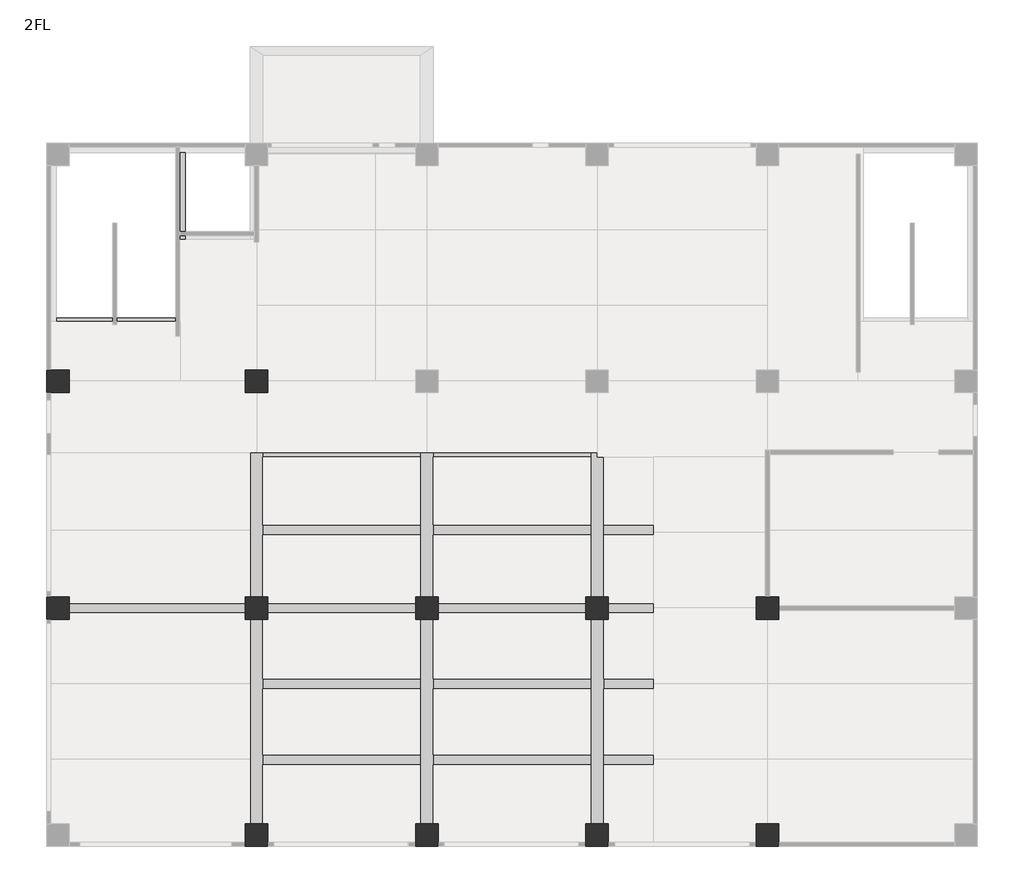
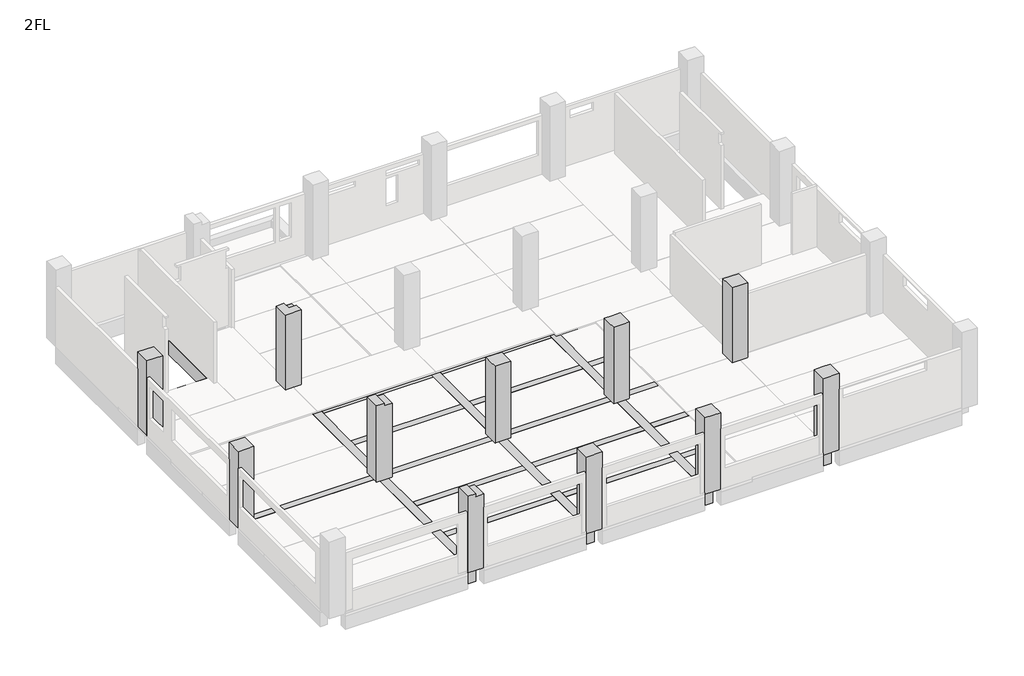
# One storey, part 3 of 4: 35 beams, 11 columns.
"""IFC4 building model written with IfcOpenShell, lengths in millimetres."""

from ifc_helpers import new_model, si_unit, frame, origin, place, context, project, spatial, polyline, outline, extrude, faceted_brep, element, save

model = new_model("IFC4")

# Units and contexts
model_context = context("Model", 3, world=origin())
ifc_project = project(units=[si_unit("LENGTHUNIT", "METRE", prefix="MILLI")], contexts=[model_context])

# Site, building, storey
site = spatial("IfcSite", under=ifc_project)
building = spatial("IfcBuilding", under=site)
storey = spatial("IfcBuildingStorey", under=building, Name="2FL", Elevation=4100.0)

# Beams
placement = place(None, origin())
element("IfcBeam", 1, ObjectType="RC_B : 2G12", at=placement, inside=storey, context=model_context, shape_type="Brep", body=[
    faceted_brep([(6775.0, 0.0, 3100.0), (6775.0, 0.0, 4000.0), (6775.0, 400.0, 4000.0), (6775.0, 2664.0, 4000.0), (6775.0, 5328.0, 4000.0), (6775.0, 7600.0, 4000.0), (6775.0, 7600.0, 3850.0), (6775.0, 7600.0, 3100.0), (7225.0, 0.0, 3100.0), (7225.0, 7600.0, 3100.0), (7225.0, 0.0, 4000.0), (7225.0, 7600.0, 3850.0), (7225.0, 7600.0, 4000.0), (7225.0, 5505.0, 4000.0), (7225.0, 5155.0, 4000.0), (7225.0, 2835.0, 4000.0), (7225.0, 2485.0, 4000.0), (7225.0, 400.0, 4000.0)], [[[0, 1, 2, 3, 4, 5, 6, 7]], [[8, 0, 7, 9]], [[10, 8, 9, 11, 12, 13, 14, 15, 16, 17]], [[1, 10, 17, 16, 15, 14, 13, 12, 5, 4, 3, 2]], [[7, 6, 5, 12, 11, 9]], [[1, 0, 8, 10]]]),
])
element("IfcBeam", 2, ObjectType="RC_B : 2G12", at=placement, inside=storey, context=model_context, shape_type="Brep", body=[
    faceted_brep([(6775.0, 15600.0, 3100.0), (6775.0, 8000.0, 3100.0), (6775.0, 8000.0, 3150.0), (6775.0, 8175.0, 3150.0), (6775.0, 8175.0, 4000.0), (6775.0, 8400.0, 4000.0), (6775.0, 10748.0, 4000.0), (6775.0, 13496.0, 4000.0), (6775.0, 13496.0, 3940.0), (6775.0, 13675.0, 3940.0), (6775.0, 15600.0, 3940.0), (7225.0, 15600.0, 3100.0), (7225.0, 8000.0, 3100.0), (7225.0, 15600.0, 3940.0), (7225.0, 15600.0, 4000.0), (7225.0, 13675.0, 4000.0), (7225.0, 13325.0, 4000.0), (7225.0, 10925.0, 4000.0), (7225.0, 10575.0, 4000.0), (7225.0, 8400.0, 4000.0), (7225.0, 8175.0, 4000.0), (7225.0, 8000.0, 4000.0), (7000.0, 15600.0, 4000.0), (7000.0, 13496.0, 4000.0), (7000.0, 8175.0, 4000.0), (7000.0, 8000.0, 4000.0), (7000.0, 15600.0, 3940.0), (7000.0, 8000.0, 3150.0), (7000.0, 8175.0, 3150.0), (7000.0, 13496.0, 3940.0)], [[[0, 1, 2, 3, 4, 5, 6, 7, 8, 9, 10]], [[0, 11, 12, 1]], [[11, 13, 14, 15, 16, 17, 18, 19, 20, 21, 12]], [[21, 20, 19, 18, 17, 16, 15, 14, 22, 23, 7, 6, 5, 4, 24, 25]], [[11, 0, 10, 26, 22, 14, 13]], [[1, 12, 21, 25, 27, 2]], [[28, 24, 4, 3]], [[28, 3, 2, 27]], [[24, 28, 27, 25]], [[8, 29, 26, 10, 9]], [[26, 29, 23, 22]], [[29, 8, 7, 23]]]),
])
element("IfcBeam", 3, ObjectType="RC_B : 2G12", at=placement, inside=storey, context=model_context, shape_type="Brep", body=[
    faceted_brep([(12775.0, 0.0, 3100.0), (12775.0, 0.0, 4000.0), (12775.0, 400.0, 4000.0), (12775.0, 2485.0, 4000.0), (12775.0, 2835.0, 4000.0), (12775.0, 5155.0, 4000.0), (12775.0, 5505.0, 4000.0), (12775.0, 7600.0, 4000.0), (12775.0, 7600.0, 3850.0), (12775.0, 7600.0, 3100.0), (13225.0, 0.0, 3100.0), (13225.0, 7600.0, 3100.0), (13225.0, 0.0, 4000.0), (13225.0, 7600.0, 3850.0), (13225.0, 7600.0, 4000.0), (13225.0, 5505.0, 4000.0), (13225.0, 5155.0, 4000.0), (13225.0, 2835.0, 4000.0), (13225.0, 2485.0, 4000.0), (13225.0, 400.0, 4000.0)], [[[0, 1, 2, 3, 4, 5, 6, 7, 8, 9]], [[10, 0, 9, 11]], [[12, 10, 11, 13, 14, 15, 16, 17, 18, 19]], [[1, 12, 19, 18, 17, 16, 15, 14, 7, 6, 5, 4, 3, 2]], [[9, 8, 7, 14, 13, 11]], [[1, 0, 10, 12]]]),
])
element("IfcBeam", 4, ObjectType="RC_B : 2G12", at=placement, inside=storey, context=model_context, shape_type="Brep", body=[
    faceted_brep([(12775.0, 15600.0, 4000.0), (12775.0, 15600.0, 3940.0), (12775.0, 15600.0, 3100.0), (12775.0, 8000.0, 3100.0), (12775.0, 8000.0, 3150.0), (12775.0, 8175.0, 3150.0), (12775.0, 8175.0, 4000.0), (12775.0, 8400.0, 4000.0), (12775.0, 10575.0, 4000.0), (12775.0, 10925.0, 4000.0), (12775.0, 13325.0, 4000.0), (12775.0, 13675.0, 4000.0), (13225.0, 15600.0, 3100.0), (13225.0, 8000.0, 3100.0), (13225.0, 15600.0, 3940.0), (13225.0, 15600.0, 4000.0), (13225.0, 13675.0, 4000.0), (13225.0, 13325.0, 4000.0), (13225.0, 10925.0, 4000.0), (13225.0, 10575.0, 4000.0), (13225.0, 8400.0, 4000.0), (13225.0, 8175.0, 4000.0), (13225.0, 8000.0, 4000.0), (13000.0, 15600.0, 4000.0), (13000.0, 8175.0, 4000.0), (13000.0, 8000.0, 4000.0), (13000.0, 8000.0, 3150.0), (13000.0, 8175.0, 3150.0)], [[[0, 1, 2, 3, 4, 5, 6, 7, 8, 9, 10, 11]], [[2, 12, 13, 3]], [[12, 14, 15, 16, 17, 18, 19, 20, 21, 22, 13]], [[15, 23, 0, 11, 10, 9, 8, 7, 6, 24, 25, 22, 21, 20, 19, 18, 17, 16]], [[12, 2, 1, 0, 23, 15, 14]], [[3, 13, 22, 25, 26, 4]], [[27, 24, 6, 5]], [[27, 5, 4, 26]], [[24, 27, 26, 25]]]),
])
element("IfcBeam", 5, ObjectType="RC_B : 2G12", at=placement, inside=storey, context=model_context, shape_type="Brep", body=[
    faceted_brep([(18775.0, 0.0, 3100.0), (18775.0, 0.0, 4000.0), (18775.0, 400.0, 4000.0), (18775.0, 2485.0, 4000.0), (18775.0, 2835.0, 4000.0), (18775.0, 5155.0, 4000.0), (18775.0, 5505.0, 4000.0), (18775.0, 7600.0, 4000.0), (18775.0, 7600.0, 3850.0), (18775.0, 7600.0, 3100.0), (19225.0, 0.0, 3100.0), (19225.0, 7600.0, 3100.0), (19225.0, 0.0, 4000.0), (19225.0, 7600.0, 3850.0), (19225.0, 7600.0, 4000.0), (19225.0, 5505.0, 4000.0), (19225.0, 5155.0, 4000.0), (19225.0, 2835.0, 4000.0), (19225.0, 2485.0, 4000.0), (19225.0, 400.0, 4000.0)], [[[0, 1, 2, 3, 4, 5, 6, 7, 8, 9]], [[10, 0, 9, 11]], [[12, 10, 11, 13, 14, 15, 16, 17, 18, 19]], [[1, 12, 19, 18, 17, 16, 15, 14, 7, 6, 5, 4, 3, 2]], [[9, 8, 7, 14, 13, 11]], [[1, 0, 10, 12]]]),
])
element("IfcBeam", 6, ObjectType="RC_B : 2G12", at=placement, inside=storey, context=model_context, shape_type="Brep", body=[
    faceted_brep([(18775.0, 15600.0, 4000.0), (18775.0, 15600.0, 3940.0), (18775.0, 15600.0, 3100.0), (18775.0, 8000.0, 3100.0), (18775.0, 8000.0, 3150.0), (18775.0, 8175.0, 3150.0), (18775.0, 8175.0, 4000.0), (18775.0, 8400.0, 4000.0), (18775.0, 10575.0, 4000.0), (18775.0, 10925.0, 4000.0), (18775.0, 13325.0, 4000.0), (18775.0, 13675.0, 4000.0), (19225.0, 15600.0, 3100.0), (19225.0, 8000.0, 3100.0), (19225.0, 15600.0, 3940.0), (19225.0, 15600.0, 4000.0), (19225.0, 13675.0, 4000.0), (19225.0, 13325.0, 4000.0), (19225.0, 10925.0, 4000.0), (19225.0, 10575.0, 4000.0), (19225.0, 8400.0, 4000.0), (19225.0, 8175.0, 4000.0), (19225.0, 8000.0, 4000.0), (19000.0, 15600.0, 4000.0), (19000.0, 8175.0, 4000.0), (19000.0, 8000.0, 4000.0), (19000.0, 8000.0, 3150.0), (19000.0, 8175.0, 3150.0)], [[[0, 1, 2, 3, 4, 5, 6, 7, 8, 9, 10, 11]], [[2, 12, 13, 3]], [[12, 14, 15, 16, 17, 18, 19, 20, 21, 22, 13]], [[15, 23, 0, 11, 10, 9, 8, 7, 6, 24, 25, 22, 21, 20, 19, 18, 17, 16]], [[12, 2, 1, 0, 23, 15, 14]], [[3, 13, 22, 25, 26, 4]], [[27, 24, 6, 5]], [[27, 5, 4, 26]], [[24, 27, 26, 25]]]),
])
element("IfcBeam", 7, ObjectType="RC_B : 2G12", at=placement, inside=storey, context=model_context, shape_type="Brep", body=[
    faceted_brep([(24775.0, 7600.0, 3100.0), (24775.0, 0.0, 3100.0), (24775.0, 0.0, 3940.0), (24775.0, 7600.0, 3940.0), (25225.0, 7600.0, 3100.0), (25225.0, 0.0, 3100.0), (25225.0, 7600.0, 3940.0), (25225.0, 5505.0, 3940.0), (25225.0, 5155.0, 3940.0), (25225.0, 2835.0, 3940.0), (25225.0, 2485.0, 3940.0), (25225.0, 0.0, 3940.0), (25000.0, 7600.0, 3940.0)], [[[0, 1, 2, 3]], [[0, 4, 5, 1]], [[5, 4, 6, 7, 8, 9, 10, 11]], [[4, 0, 3, 12, 6]], [[1, 5, 11, 2]], [[2, 11, 10, 9, 8, 7, 6, 12, 3]]]),
])
element("IfcBeam", 8, ObjectType="RC_B : 2G12", at=placement, inside=storey, context=model_context, shape_type="Brep", body=[
    faceted_brep([(24775.0, 15600.0, 3100.0), (24775.0, 8000.0, 3100.0), (24775.0, 8000.0, 3150.0), (24775.0, 8175.0, 3150.0), (24775.0, 8175.0, 3940.0), (24775.0, 10575.0, 3940.0), (24775.0, 10575.0, 3250.0), (24775.0, 10925.0, 3250.0), (24775.0, 10925.0, 3940.0), (24775.0, 13325.0, 3940.0), (24775.0, 13325.0, 3250.0), (24775.0, 13675.0, 3250.0), (24775.0, 13675.0, 3940.0), (24775.0, 15600.0, 3940.0), (25225.0, 15600.0, 3100.0), (25225.0, 13575.0, 3100.0), (25075.0, 13575.0, 3100.0), (25075.0, 13425.0, 3100.0), (25225.0, 13425.0, 3100.0), (25225.0, 8000.0, 3100.0), (25225.0, 15600.0, 3940.0), (25225.0, 13675.0, 3940.0), (25225.0, 13325.0, 3940.0), (25225.0, 10925.0, 3940.0), (25225.0, 10575.0, 3940.0), (25225.0, 8175.0, 3940.0), (25225.0, 8000.0, 3940.0), (25225.0, 13425.0, 3250.0), (25225.0, 13575.0, 3250.0), (25000.0, 15600.0, 3940.0), (25000.0, 8000.0, 3940.0), (25000.0, 8000.0, 3150.0), (25000.0, 8175.0, 3150.0), (25000.0, 8175.0, 3940.0), (24912.3, 13675.0, 3940.0), (24912.3, 13328.0, 3940.0), (24912.3, 13325.0, 3940.0), (24912.3, 10925.0, 3940.0), (24912.3, 10664.0, 3940.0), (24912.3, 10575.0, 3940.0), (24912.3, 10925.0, 3250.0), (24912.3, 10575.0, 3250.0), (24912.3, 13675.0, 3250.0), (24912.3, 13325.0, 3250.0), (25075.0, 13575.0, 3250.0), (25075.0, 13425.0, 3250.0)], [[[0, 1, 2, 3, 4, 5, 6, 7, 8, 9, 10, 11, 12, 13]], [[0, 14, 15, 16, 17, 18, 19, 1]], [[14, 20, 21, 22, 23, 24, 25, 26, 19, 18, 27, 28, 15]], [[14, 0, 13, 29, 20]], [[1, 19, 26, 30, 31, 2]], [[3, 32, 33, 4]], [[32, 3, 2, 31]], [[32, 31, 30, 33]], [[20, 29, 13, 12, 34, 35, 36, 9, 8, 37, 38, 39, 5, 4, 33, 30, 26, 25, 24, 23, 22, 21]], [[7, 40, 37, 8]], [[41, 40, 7, 6]], [[41, 6, 5, 39]], [[40, 41, 39, 38, 37]], [[11, 42, 34, 12]], [[43, 42, 11, 10]], [[43, 10, 9, 36]], [[42, 43, 36, 35, 34]], [[28, 44, 16, 15]], [[17, 45, 27, 18]], [[45, 44, 28, 27]], [[44, 45, 17, 16]]]),
])
element("IfcBeam", 9, ObjectType="RC_B : 2G2", at=placement, inside=storey, context=model_context, shape_type="Brep", body=[
    faceted_brep([(0.0, 8175.0, 3150.0), (0.0, 8175.0, 4000.0), (400.0, 8175.0, 4000.0), (6600.0, 8175.0, 4000.0), (6600.0, 8175.0, 3850.0), (6600.0, 8175.0, 3150.0), (0.0, 7825.0, 3150.0), (6600.0, 7825.0, 3150.0), (0.0, 7825.0, 4000.0), (6600.0, 7825.0, 3850.0), (6600.0, 7825.0, 4000.0), (400.0, 7825.0, 4000.0)], [[[0, 1, 2, 3, 4, 5]], [[6, 0, 5, 7]], [[8, 6, 7, 9, 10, 11]], [[1, 8, 11, 10, 3, 2]], [[5, 4, 3, 10, 9, 7]], [[1, 0, 6, 8]]]),
])
element("IfcBeam", 10, ObjectType="RC_B : 2G2", at=placement, inside=storey, context=model_context, shape_type="Brep", body=[
    faceted_brep([(12600.0, 8175.0, 4000.0), (12600.0, 8175.0, 3850.0), (12600.0, 8175.0, 3150.0), (7225.0, 8175.0, 3150.0), (7225.0, 8175.0, 4000.0), (7400.0, 8175.0, 4000.0), (12600.0, 7825.0, 3150.0), (7225.0, 7825.0, 3150.0), (12600.0, 7825.0, 3850.0), (12600.0, 7825.0, 4000.0), (7400.0, 7825.0, 4000.0), (7225.0, 7825.0, 4000.0), (7225.0, 8000.0, 4000.0)], [[[0, 1, 2, 3, 4, 5]], [[2, 6, 7, 3]], [[6, 8, 9, 10, 11, 7]], [[9, 0, 5, 4, 12, 11, 10]], [[2, 1, 0, 9, 8, 6]], [[7, 11, 12, 4, 3]]]),
])
element("IfcBeam", 11, ObjectType="RC_B : 2G2", at=placement, inside=storey, context=model_context, shape_type="Brep", body=[
    faceted_brep([(18600.0, 8175.0, 4000.0), (18600.0, 8175.0, 3850.0), (18600.0, 8175.0, 3150.0), (13225.0, 8175.0, 3150.0), (13225.0, 8175.0, 4000.0), (13400.0, 8175.0, 4000.0), (18600.0, 7825.0, 3150.0), (13225.0, 7825.0, 3150.0), (18600.0, 7825.0, 3850.0), (18600.0, 7825.0, 4000.0), (13400.0, 7825.0, 4000.0), (13225.0, 7825.0, 4000.0), (13225.0, 8000.0, 4000.0)], [[[0, 1, 2, 3, 4, 5]], [[2, 6, 7, 3]], [[6, 8, 9, 10, 11, 7]], [[9, 0, 5, 4, 12, 11, 10]], [[2, 1, 0, 9, 8, 6]], [[7, 11, 12, 4, 3]]]),
])
element("IfcBeam", 12, ObjectType="RC_B : 2G2", at=placement, inside=storey, context=model_context, shape_type="Brep", body=[
    faceted_brep([(24600.0, 8175.0, 3150.0), (19225.0, 8175.0, 3150.0), (19225.0, 8175.0, 4000.0), (19400.0, 8175.0, 4000.0), (20998.0, 8175.0, 4000.0), (20998.0, 8175.0, 3940.0), (24600.0, 8175.0, 3940.0), (24600.0, 7825.0, 3150.0), (22075.0, 7825.0, 3150.0), (21925.0, 7825.0, 3150.0), (19225.0, 7825.0, 3150.0), (24600.0, 7825.0, 3940.0), (22075.0, 7825.0, 3940.0), (21925.0, 7825.0, 3940.0), (20998.0, 7825.0, 3940.0), (20998.0, 7825.0, 4000.0), (19400.0, 7825.0, 4000.0), (19225.0, 7825.0, 4000.0), (19225.0, 8000.0, 4000.0), (24600.0, 8000.0, 3940.0), (20998.0, 8000.0, 3940.0)], [[[0, 1, 2, 3, 4, 5, 6]], [[0, 7, 8, 9, 10, 1]], [[10, 9, 8, 7, 11, 12, 13, 14, 15, 16, 17]], [[2, 18, 17, 16, 15, 4, 3]], [[7, 0, 6, 19, 11]], [[10, 17, 18, 2, 1]], [[14, 13, 12, 11, 19, 6, 5, 20]], [[14, 20, 5, 4, 15]]]),
])
element("IfcBeam", 13, ObjectType="RC_B : 2G2", at=placement, inside=storey, context=model_context, shape_type="Brep", body=[
    faceted_brep([(31600.0, 8175.0, 3150.0), (25225.0, 8175.0, 3150.0), (25225.0, 8175.0, 3940.0), (31600.0, 8175.0, 3940.0), (31600.0, 7825.0, 3150.0), (25225.0, 7825.0, 3150.0), (31600.0, 7825.0, 3940.0), (25225.0, 7825.0, 3940.0), (31600.0, 8000.0, 3940.0), (25225.0, 8000.0, 3940.0)], [[[0, 1, 2, 3]], [[0, 4, 5, 1]], [[5, 4, 6, 7]], [[4, 0, 3, 8, 6]], [[1, 5, 7, 9, 2]], [[7, 6, 8, 3, 2, 9]]]),
])
element("IfcBeam", 14, ObjectType="RC_B : 2G2", at=placement, inside=storey, context=model_context, shape_type="Brep", body=[
    faceted_brep([(6600.0, 16175.0, 3150.0), (2075.0, 16175.0, 3150.0), (1925.0, 16175.0, 3150.0), (0.0, 16175.0, 3150.0), (0.0, 16175.0, 3940.0), (6600.0, 16175.0, 3940.0), (6600.0, 15825.0, 3150.0), (0.0, 15825.0, 3150.0), (6600.0, 15825.0, 3940.0), (0.0, 15825.0, 3940.0), (6600.0, 16000.0, 3940.0)], [[[0, 1, 2, 3, 4, 5]], [[0, 6, 7, 3, 2, 1]], [[7, 6, 8, 9]], [[6, 0, 5, 10, 8]], [[3, 7, 9, 4]], [[9, 8, 10, 5, 4]]]),
])
element("IfcBeam", 15, ObjectType="RC_B : B1", at=placement, inside=storey, context=model_context, shape_type="Brep", body=[
    faceted_brep([(6775.0, 5505.0, 3250.0), (-50.0, 5505.0, 3250.0), (-50.0, 5505.0, 3850.0), (6775.0, 5505.0, 3850.0), (6775.0, 5155.0, 3250.0), (-50.0, 5155.0, 3250.0), (6775.0, 5155.0, 3850.0), (-50.0, 5155.0, 3850.0), (6775.0, 5328.0, 3850.0)], [[[0, 1, 2, 3]], [[0, 4, 5, 1]], [[5, 4, 6, 7]], [[4, 0, 3, 8, 6]], [[1, 5, 7, 2]], [[3, 2, 7, 6, 8]]]),
])
element("IfcBeam", 16, ObjectType="RC_B : B1", at=placement, inside=storey, context=model_context, shape_type="Brep", body=[
    faceted_brep([(7225.0, 2835.0, 3250.0), (7225.0, 2835.0, 3850.0), (7225.0, 2835.0, 4000.0), (12775.0, 2835.0, 4000.0), (12775.0, 2835.0, 3850.0), (12775.0, 2835.0, 3250.0), (7225.0, 2485.0, 3250.0), (12775.0, 2485.0, 3250.0), (7225.0, 2485.0, 4000.0), (7225.0, 2485.0, 3850.0), (12775.0, 2485.0, 3850.0), (12775.0, 2485.0, 4000.0)], [[[0, 1, 2, 3, 4, 5]], [[6, 0, 5, 7]], [[8, 9, 6, 7, 10, 11]], [[2, 8, 11, 3]], [[2, 1, 0, 6, 9, 8]], [[5, 4, 3, 11, 10, 7]]]),
])
element("IfcBeam", 17, ObjectType="RC_B : B1", at=placement, inside=storey, context=model_context, shape_type="Brep", body=[
    faceted_brep([(7225.0, 5505.0, 3250.0), (7225.0, 5505.0, 3850.0), (7225.0, 5505.0, 4000.0), (12775.0, 5505.0, 4000.0), (12775.0, 5505.0, 3850.0), (12775.0, 5505.0, 3250.0), (7225.0, 5155.0, 3250.0), (12775.0, 5155.0, 3250.0), (7225.0, 5155.0, 4000.0), (7225.0, 5155.0, 3850.0), (12775.0, 5155.0, 3850.0), (12775.0, 5155.0, 4000.0)], [[[0, 1, 2, 3, 4, 5]], [[6, 0, 5, 7]], [[8, 9, 6, 7, 10, 11]], [[2, 8, 11, 3]], [[2, 1, 0, 6, 9, 8]], [[5, 4, 3, 11, 10, 7]]]),
])
element("IfcBeam", 18, ObjectType="RC_B : B1", at=placement, inside=storey, context=model_context, shape_type="Brep", body=[
    faceted_brep([(13225.0, 2835.0, 3250.0), (13225.0, 2835.0, 3850.0), (13225.0, 2835.0, 4000.0), (18775.0, 2835.0, 4000.0), (18775.0, 2835.0, 3850.0), (18775.0, 2835.0, 3250.0), (13225.0, 2485.0, 3250.0), (18775.0, 2485.0, 3250.0), (13225.0, 2485.0, 4000.0), (13225.0, 2485.0, 3850.0), (18775.0, 2485.0, 3850.0), (18775.0, 2485.0, 4000.0)], [[[0, 1, 2, 3, 4, 5]], [[6, 0, 5, 7]], [[8, 9, 6, 7, 10, 11]], [[2, 8, 11, 3]], [[2, 1, 0, 6, 9, 8]], [[5, 4, 3, 11, 10, 7]]]),
])
element("IfcBeam", 19, ObjectType="RC_B : B1", at=placement, inside=storey, context=model_context, shape_type="Brep", body=[
    faceted_brep([(13225.0, 5505.0, 3250.0), (13225.0, 5505.0, 3850.0), (13225.0, 5505.0, 4000.0), (18775.0, 5505.0, 4000.0), (18775.0, 5505.0, 3850.0), (18775.0, 5505.0, 3250.0), (13225.0, 5155.0, 3250.0), (18775.0, 5155.0, 3250.0), (13225.0, 5155.0, 4000.0), (13225.0, 5155.0, 3850.0), (18775.0, 5155.0, 3850.0), (18775.0, 5155.0, 4000.0)], [[[0, 1, 2, 3, 4, 5]], [[6, 0, 5, 7]], [[8, 9, 6, 7, 10, 11]], [[2, 8, 11, 3]], [[2, 1, 0, 6, 9, 8]], [[5, 4, 3, 11, 10, 7]]]),
])
element("IfcBeam", 20, ObjectType="RC_B : B1", at=placement, inside=storey, context=model_context, shape_type="SweptSolid", body=[
    extrude(outline(polyline([(13675.0, 3250.0), (13325.0, 3250.0), (13325.0, 3850.0), (13496.0, 3850.0), (13496.0, 3940.0), (13675.0, 3940.0), (13675.0, 3250.0)])), frame((-50.0, 0.0, 0.0), z_axis=(1.0, 0.0, 0.0), x_axis=(0.0, 1.0, 0.0)), (0.0, 0.0, 1.0), 6825.0),
])
element("IfcBeam", 21, ObjectType="RC_B : B1", at=placement, inside=storey, context=model_context, shape_type="Brep", body=[
    faceted_brep([(7225.0, 13675.0, 3250.0), (7225.0, 13675.0, 3940.0), (7225.0, 13675.0, 4000.0), (12775.0, 13675.0, 4000.0), (12775.0, 13675.0, 3940.0), (12775.0, 13675.0, 3250.0), (7225.0, 13325.0, 3250.0), (12775.0, 13325.0, 3250.0), (7225.0, 13325.0, 4000.0), (7225.0, 13325.0, 3850.0), (12775.0, 13325.0, 3850.0), (12775.0, 13325.0, 4000.0)], [[[0, 1, 2, 3, 4, 5]], [[6, 0, 5, 7]], [[8, 9, 6, 7, 10, 11]], [[2, 8, 11, 3]], [[2, 1, 0, 6, 9, 8]], [[5, 4, 3, 11, 10, 7]]]),
])
element("IfcBeam", 22, ObjectType="RC_B : B1", at=placement, inside=storey, context=model_context, shape_type="Brep", body=[
    faceted_brep([(13225.0, 13675.0, 3250.0), (13225.0, 13675.0, 3940.0), (13225.0, 13675.0, 4000.0), (18775.0, 13675.0, 4000.0), (18775.0, 13675.0, 3940.0), (18775.0, 13675.0, 3250.0), (13225.0, 13325.0, 3250.0), (18775.0, 13325.0, 3250.0), (13225.0, 13325.0, 4000.0), (13225.0, 13325.0, 3850.0), (18775.0, 13325.0, 3850.0), (18775.0, 13325.0, 4000.0)], [[[0, 1, 2, 3, 4, 5]], [[6, 0, 5, 7]], [[8, 9, 6, 7, 10, 11]], [[2, 8, 11, 3]], [[2, 1, 0, 6, 9, 8]], [[5, 4, 3, 11, 10, 7]]]),
])
element("IfcBeam", 23, ObjectType="RC_B : B1", at=placement, inside=storey, context=model_context, shape_type="Brep", body=[
    faceted_brep([(6775.0, 10925.0, 3250.0), (-50.0, 10925.0, 3250.0), (-50.0, 10925.0, 3850.0), (6775.0, 10925.0, 3850.0), (6775.0, 10575.0, 3250.0), (-50.0, 10575.0, 3250.0), (6775.0, 10575.0, 3850.0), (-50.0, 10575.0, 3850.0), (6775.0, 10748.0, 3850.0)], [[[0, 1, 2, 3]], [[0, 4, 5, 1]], [[5, 4, 6, 7]], [[4, 0, 3, 8, 6]], [[1, 5, 7, 2]], [[3, 2, 7, 6, 8]]]),
])
element("IfcBeam", 24, ObjectType="RC_B : B1", at=placement, inside=storey, context=model_context, shape_type="Brep", body=[
    faceted_brep([(7225.0, 10925.0, 3250.0), (7225.0, 10925.0, 3850.0), (7225.0, 10925.0, 4000.0), (12775.0, 10925.0, 4000.0), (12775.0, 10925.0, 3850.0), (12775.0, 10925.0, 3250.0), (7225.0, 10575.0, 3250.0), (12775.0, 10575.0, 3250.0), (7225.0, 10575.0, 4000.0), (7225.0, 10575.0, 3850.0), (12775.0, 10575.0, 3850.0), (12775.0, 10575.0, 4000.0)], [[[0, 1, 2, 3, 4, 5]], [[6, 0, 5, 7]], [[8, 9, 6, 7, 10, 11]], [[2, 8, 11, 3]], [[2, 1, 0, 6, 9, 8]], [[5, 4, 3, 11, 10, 7]]]),
])
element("IfcBeam", 25, ObjectType="RC_B : B1", at=placement, inside=storey, context=model_context, shape_type="Brep", body=[
    faceted_brep([(13225.0, 10925.0, 3250.0), (13225.0, 10925.0, 3850.0), (13225.0, 10925.0, 4000.0), (18775.0, 10925.0, 4000.0), (18775.0, 10925.0, 3850.0), (18775.0, 10925.0, 3250.0), (13225.0, 10575.0, 3250.0), (18775.0, 10575.0, 3250.0), (13225.0, 10575.0, 4000.0), (13225.0, 10575.0, 3850.0), (18775.0, 10575.0, 3850.0), (18775.0, 10575.0, 4000.0)], [[[0, 1, 2, 3, 4, 5]], [[6, 0, 5, 7]], [[8, 9, 6, 7, 10, 11]], [[2, 8, 11, 3]], [[2, 1, 0, 6, 9, 8]], [[5, 4, 3, 11, 10, 7]]]),
])
element("IfcBeam", 26, ObjectType="RC_B : B2", at=placement, inside=storey, context=model_context, shape_type="Brep", body=[
    faceted_brep([(19225.0, 2835.0, 3250.0), (19225.0, 2835.0, 3850.0), (19225.0, 2835.0, 4000.0), (20998.0, 2835.0, 4000.0), (24775.0, 2835.0, 4000.0), (24775.0, 2835.0, 3250.0), (22075.0, 2835.0, 3250.0), (21925.0, 2835.0, 3250.0), (19225.0, 2485.0, 3250.0), (24775.0, 2485.0, 3250.0), (22075.0, 2485.0, 3250.0), (21925.0, 2485.0, 3250.0), (19225.0, 2485.0, 4000.0), (19225.0, 2485.0, 3850.0), (24775.0, 2485.0, 4000.0), (20998.0, 2485.0, 4000.0)], [[[0, 1, 2, 3, 4, 5, 6, 7]], [[8, 0, 7, 6, 5, 9, 10, 11]], [[12, 13, 8, 11, 10, 9, 14, 15]], [[2, 12, 15, 14, 4, 3]], [[2, 1, 0, 8, 13, 12]], [[5, 4, 14, 9]]]),
])
element("IfcBeam", 27, ObjectType="RC_B : B2", at=placement, inside=storey, context=model_context, shape_type="Brep", body=[
    faceted_brep([(19225.0, 5505.0, 3250.0), (19225.0, 5505.0, 3850.0), (19225.0, 5505.0, 4000.0), (20998.0, 5505.0, 4000.0), (24775.0, 5505.0, 4000.0), (24775.0, 5505.0, 3250.0), (22075.0, 5505.0, 3250.0), (21925.0, 5505.0, 3250.0), (19225.0, 5155.0, 3250.0), (24775.0, 5155.0, 3250.0), (22075.0, 5155.0, 3250.0), (21925.0, 5155.0, 3250.0), (19225.0, 5155.0, 4000.0), (19225.0, 5155.0, 3850.0), (24775.0, 5155.0, 4000.0), (20998.0, 5155.0, 4000.0)], [[[0, 1, 2, 3, 4, 5, 6, 7]], [[8, 0, 7, 6, 5, 9, 10, 11]], [[12, 13, 8, 11, 10, 9, 14, 15]], [[2, 12, 15, 14, 4, 3]], [[2, 1, 0, 8, 13, 12]], [[5, 4, 14, 9]]]),
])
element("IfcBeam", 28, ObjectType="RC_B : B2", at=placement, inside=storey, context=model_context, shape_type="SweptSolid", body=[
    extrude(outline(polyline([(25225.0, 2485.0), (25225.0, 2835.0), (32050.0, 2835.0), (32050.0, 2485.0), (25225.0, 2485.0)])), frame((0.0, 0.0, 3250.0), z_axis=(0.0, 0.0, 1.0), x_axis=(1.0, 0.0, 0.0)), (0.0, 0.0, 1.0), 690.0),
])
element("IfcBeam", 29, ObjectType="RC_B : B2", at=placement, inside=storey, context=model_context, shape_type="SweptSolid", body=[
    extrude(outline(polyline([(32050.0, 5505.0), (32050.0, 5155.0), (25225.0, 5155.0), (25225.0, 5505.0), (32050.0, 5505.0)])), frame((0.0, 0.0, 3250.0), z_axis=(0.0, 0.0, 1.0), x_axis=(1.0, 0.0, 0.0)), (0.0, 0.0, 1.0), 690.0),
])
element("IfcBeam", 30, ObjectType="RC_B : B2", at=placement, inside=storey, context=model_context, shape_type="Brep", body=[
    faceted_brep([(24912.3, 10925.0, 4000.0), (24912.3, 10925.0, 3940.0), (24912.3, 10925.0, 3250.0), (24775.0, 10925.0, 3250.0), (19225.0, 10925.0, 3250.0), (19225.0, 10925.0, 3850.0), (19225.0, 10925.0, 4000.0), (20998.0, 10925.0, 4000.0), (24912.3, 10575.0, 3250.0), (24775.0, 10575.0, 3250.0), (19225.0, 10575.0, 3250.0), (24912.3, 10575.0, 3940.0), (24912.3, 10575.0, 4000.0), (20998.0, 10575.0, 4000.0), (19225.0, 10575.0, 4000.0), (19225.0, 10575.0, 3850.0), (24912.3, 10664.0, 4000.0)], [[[0, 1, 2, 3, 4, 5, 6, 7]], [[2, 8, 9, 10, 4, 3]], [[8, 11, 12, 13, 14, 15, 10, 9]], [[12, 16, 0, 7, 6, 14, 13]], [[2, 1, 0, 16, 12, 11, 8]], [[6, 5, 4, 10, 15, 14]]]),
])
element("IfcBeam", 31, ObjectType="RC_B : B2", at=placement, inside=storey, context=model_context, shape_type="Brep", body=[
    faceted_brep([(24912.3, 13675.0, 4000.0), (24912.3, 13675.0, 3940.0), (24912.3, 13675.0, 3250.0), (24775.0, 13675.0, 3250.0), (19225.0, 13675.0, 3250.0), (19225.0, 13675.0, 3940.0), (19225.0, 13675.0, 4000.0), (24912.3, 13325.0, 3250.0), (24775.0, 13325.0, 3250.0), (19225.0, 13325.0, 3250.0), (24912.3, 13325.0, 3940.0), (24912.3, 13325.0, 4000.0), (20998.0, 13325.0, 4000.0), (19225.0, 13325.0, 4000.0), (19225.0, 13325.0, 3850.0), (24912.3, 13328.0, 4000.0)], [[[0, 1, 2, 3, 4, 5, 6]], [[2, 7, 8, 9, 4, 3]], [[7, 10, 11, 12, 13, 14, 9, 8]], [[11, 15, 0, 6, 13, 12]], [[2, 1, 0, 15, 11, 10, 7]], [[6, 5, 4, 9, 14, 13]]]),
])
element("IfcBeam", 32, ObjectType="RC_B : B2", at=placement, inside=storey, context=model_context, shape_type="Brep", body=[
    faceted_brep([(32050.0, 13675.0, 3250.0), (25225.0, 13675.0, 3250.0), (25225.0, 13675.0, 3940.0), (32050.0, 13675.0, 3940.0), (25225.0, 13325.0, 3250.0), (25225.0, 13425.0, 3250.0), (25225.0, 13575.0, 3250.0), (32050.0, 13575.0, 3250.0), (32050.0, 13425.0, 3250.0), (32050.0, 13325.0, 3250.0), (31410.0, 13325.0, 3250.0), (31410.0, 13425.0, 3250.0), (31260.0, 13425.0, 3250.0), (31260.0, 13325.0, 3250.0), (25225.0, 13325.0, 3940.0), (31260.0, 13325.0, 3940.0), (32050.0, 13325.0, 3940.0), (31260.0, 13425.0, 3940.0), (31410.0, 13425.0, 3940.0), (31410.0, 13325.0, 3940.0)], [[[0, 1, 2, 3]], [[4, 5, 6, 1, 0, 7, 8, 9, 10, 11, 12, 13]], [[14, 4, 13, 15]], [[1, 6, 5, 4, 14, 2]], [[9, 8, 7, 0, 3, 16]], [[3, 2, 14, 15, 17, 18, 19, 16]], [[12, 17, 15, 13]], [[18, 11, 10, 19]], [[17, 12, 11, 18]], [[9, 16, 19, 10]]]),
])
element("IfcBeam", 33, ObjectType="RC_B : B2", at=placement, inside=storey, context=model_context, shape_type="SweptSolid", body=[
    extrude(outline(polyline([(25225.0, 10575.0), (25225.0, 10925.0), (32050.0, 10925.0), (32050.0, 10575.0), (25225.0, 10575.0)])), frame((0.0, 0.0, 3250.0), z_axis=(0.0, 0.0, 1.0), x_axis=(1.0, 0.0, 0.0)), (0.0, 0.0, 1.0), 690.0),
])
element("IfcBeam", 34, ObjectType="RC_B : B3", at=placement, inside=storey, context=model_context, shape_type="SweptSolid", body=[
    extrude(outline(polyline([(18225.0, 4000.0), (18225.0, 3400.0), (17975.0, 3400.0), (17975.0, 3940.0), (18100.0, 3940.0), (18100.0, 4000.0), (18225.0, 4000.0)])), frame((-50.0, 0.0, 0.0), z_axis=(1.0, 0.0, 0.0), x_axis=(0.0, 1.0, 0.0)), (0.0, 0.0, 1.0), 1975.0),
    extrude(outline(polyline([(18225.0, 4000.0), (18225.0, 3400.0), (17975.0, 3400.0), (17975.0, 3940.0), (18100.0, 3940.0), (18100.0, 4000.0), (18225.0, 4000.0)])), frame((2075.0, 0.0, 0.0), z_axis=(1.0, 0.0, 0.0), x_axis=(0.0, 1.0, 0.0)), (0.0, 0.0, 1.0), 2069.0),
])
element("IfcBeam", 35, ObjectType="RC_B : B4", at=placement, inside=storey, context=model_context, shape_type="Brep", body=[
    faceted_brep([(4144.0, 16175.0, 3250.0), (4144.0, 16175.0, 4000.0), (4144.0, 17600.0, 4000.0), (4144.0, 18100.0, 4000.0), (4144.0, 18225.0, 4000.0), (4144.0, 24050.0, 4000.0), (4144.0, 24050.0, 3250.0), (4144.0, 17600.0, 3250.0), (4494.0, 16175.0, 3250.0), (4294.0, 24050.0, 3250.0), (4494.0, 24050.0, 3250.0), (4494.0, 21275.0, 3250.0), (4494.0, 21125.0, 3250.0), (4494.0, 16175.0, 4000.0), (4494.0, 24050.0, 4000.0), (4494.0, 21275.0, 4000.0), (4494.0, 21125.0, 4000.0), (4494.0, 20875.0, 4000.0)], [[[0, 1, 2, 3, 4, 5, 6, 7]], [[8, 0, 7, 6, 9, 10, 11, 12]], [[13, 8, 12, 11, 10, 14, 15, 16, 17]], [[1, 13, 17, 16, 15, 14, 5, 4, 3, 2]], [[1, 0, 8, 13]], [[6, 5, 14, 10, 9]]]),
])

# Columns
element("IfcColumn", 36, ObjectType="RC_C_B : 2C1", at=placement, inside=storey, context=model_context, shape_type="Brep", body=[
    faceted_brep([(7400.0, 400.0, 4000.0), (7400.0, -250.0, 4000.0), (7400.0, -400.0, 4000.0), (6600.0, -400.0, 4000.0), (6600.0, -250.0, 4000.0), (6600.0, 400.0, 4000.0), (7400.0, 400.0, 7950.0), (7400.0, -50.0, 7950.0), (7400.0, -400.0, 7950.0), (7400.0, -400.0, 7250.0), (7000.0, -400.0, 7950.0), (7000.0, -400.0, 8100.0), (6600.0, -400.0, 8100.0), (6600.0, -400.0, 7950.0), (6600.0, -400.0, 7250.0), (6600.0, -400.0, 4100.0), (6600.0, 400.0, 8100.0), (6600.0, 400.0, 7950.0), (6775.0, 400.0, 8100.0), (7000.0, 400.0, 8100.0), (7000.0, 400.0, 7950.0)], [[[0, 1, 2, 3, 4, 5]], [[2, 1, 0, 6, 7, 8, 9]], [[3, 2, 9, 8, 10, 11, 12, 13, 14, 15]], [[5, 4, 3, 15, 14, 13, 12, 16, 17]], [[0, 5, 17, 16, 18, 19, 20, 6]], [[16, 12, 11, 19, 18]], [[20, 10, 8, 7, 6]], [[10, 20, 19, 11]]]),
])
element("IfcColumn", 37, ObjectType="RC_C_B : 2C1", at=placement, inside=storey, context=model_context, shape_type="Brep", body=[
    faceted_brep([(13400.0, 400.0, 4000.0), (13400.0, -250.0, 4000.0), (13400.0, -400.0, 4000.0), (12600.0, -400.0, 4000.0), (12600.0, 400.0, 4000.0), (13400.0, 400.0, 8100.0), (13400.0, -400.0, 8100.0), (13400.0, -400.0, 7950.0), (13400.0, -400.0, 7250.0), (13400.0, 400.0, 7950.0), (12600.0, -400.0, 8100.0), (12600.0, -400.0, 7950.0), (12600.0, -400.0, 7250.0), (12600.0, 400.0, 8100.0), (12600.0, 400.0, 7950.0), (13000.0, 400.0, 8100.0)], [[[0, 1, 2, 3, 4]], [[5, 6, 7, 8, 2, 1, 0, 9]], [[6, 10, 11, 12, 3, 2, 8, 7]], [[10, 13, 14, 4, 3, 12, 11]], [[13, 15, 5, 9, 0, 4, 14]], [[5, 15, 13, 10, 6]]]),
])
element("IfcColumn", 38, ObjectType="RC_C_B : 2C1", at=placement, inside=storey, context=model_context, shape_type="Brep", body=[
    faceted_brep([(19400.0, 400.0, 4000.0), (19400.0, -250.0, 4000.0), (19400.0, -400.0, 4000.0), (18600.0, -400.0, 4000.0), (18600.0, -250.0, 4000.0), (18600.0, 400.0, 4000.0), (19400.0, 400.0, 8100.0), (19400.0, -400.0, 8100.0), (19400.0, -400.0, 7950.0), (19400.0, -400.0, 7250.0), (19400.0, 400.0, 7950.0), (18600.0, -400.0, 8100.0), (18600.0, -400.0, 7950.0), (18600.0, -400.0, 7250.0), (18600.0, -400.0, 4100.0), (18600.0, 400.0, 8100.0), (18600.0, 400.0, 7950.0), (19000.0, 400.0, 8100.0)], [[[0, 1, 2, 3, 4, 5]], [[6, 7, 8, 9, 2, 1, 0, 10]], [[7, 11, 12, 13, 14, 3, 2, 9, 8]], [[11, 15, 16, 5, 4, 3, 14, 13, 12]], [[15, 17, 6, 10, 0, 5, 16]], [[6, 17, 15, 11, 7]]]),
])
element("IfcColumn", 39, ObjectType="RC_C_B : 2C1", at=placement, inside=storey, context=model_context, shape_type="Brep", body=[
    faceted_brep([(25400.0, 400.0, 4000.0), (25400.0, -400.0, 4000.0), (24600.0, -400.0, 4000.0), (24600.0, 400.0, 4000.0), (25400.0, 400.0, 8100.0), (25400.0, -400.0, 8100.0), (25400.0, -400.0, 7950.0), (25400.0, -400.0, 7250.0), (25400.0, -400.0, 4090.0), (25400.0, 400.0, 4090.0), (25400.0, 400.0, 7950.0), (24600.0, -400.0, 8100.0), (24600.0, -400.0, 7950.0), (24600.0, -400.0, 7250.0), (24600.0, -400.0, 4090.0), (24600.0, 400.0, 8100.0), (24600.0, 400.0, 7950.0), (24600.0, 400.0, 4090.0), (25000.0, 400.0, 8100.0)], [[[0, 1, 2, 3]], [[4, 5, 6, 7, 8, 1, 0, 9, 10]], [[5, 11, 12, 13, 14, 2, 1, 8, 7, 6]], [[11, 15, 16, 17, 3, 2, 14, 13, 12]], [[15, 18, 4, 10, 9, 0, 3, 17, 16]], [[4, 18, 15, 11, 5]]]),
])
element("IfcColumn", 40, ObjectType="RC_C_B : 2C1", at=placement, inside=storey, context=model_context, shape_type="Brep", body=[
    faceted_brep([(400.0, 8400.0, 4000.0), (400.0, 7600.0, 4000.0), (-250.0, 7600.0, 4000.0), (-400.0, 7600.0, 4000.0), (-400.0, 8400.0, 4000.0), (-250.0, 8400.0, 4000.0), (400.0, 8400.0, 8100.0), (400.0, 8175.0, 8100.0), (400.0, 7825.0, 8100.0), (400.0, 7600.0, 8100.0), (400.0, 7600.0, 7950.0), (400.0, 8400.0, 7950.0), (-400.0, 7600.0, 8100.0), (-400.0, 7600.0, 7950.0), (-400.0, 7600.0, 7200.0), (-400.0, 8400.0, 8100.0), (-400.0, 8400.0, 7950.0), (-400.0, 8400.0, 7200.0)], [[[0, 1, 2, 3, 4, 5]], [[6, 7, 8, 9, 10, 1, 0, 11]], [[9, 12, 13, 14, 3, 2, 1, 10]], [[12, 15, 16, 17, 4, 3, 14, 13]], [[15, 6, 11, 0, 5, 4, 17, 16]], [[6, 15, 12, 9, 8, 7]]]),
])
element("IfcColumn", 41, ObjectType="RC_C_B : 2C1", at=placement, inside=storey, context=model_context, shape_type="Brep", body=[
    faceted_brep([(7400.0, 8400.0, 4000.0), (7400.0, 7600.0, 4000.0), (6600.0, 7600.0, 4000.0), (6600.0, 8400.0, 4000.0), (7400.0, 8400.0, 7950.0), (7400.0, 7600.0, 7950.0), (7225.0, 7600.0, 7950.0), (7000.0, 7600.0, 7950.0), (7000.0, 7600.0, 8100.0), (6775.0, 7600.0, 8100.0), (6600.0, 7600.0, 8100.0), (6600.0, 7600.0, 7950.0), (6600.0, 7825.0, 8100.0), (6600.0, 8175.0, 8100.0), (6600.0, 8400.0, 8100.0), (6600.0, 8400.0, 7950.0), (6775.0, 8400.0, 8100.0), (7000.0, 8400.0, 8100.0), (7000.0, 8400.0, 7950.0), (7000.0, 8000.0, 8100.0), (7000.0, 8000.0, 7950.0)], [[[0, 1, 2, 3]], [[1, 0, 4, 5]], [[2, 1, 5, 6, 7, 8, 9, 10, 11]], [[3, 2, 11, 10, 12, 13, 14, 15]], [[0, 3, 15, 14, 16, 17, 18, 4]], [[14, 13, 12, 10, 9, 8, 19, 17, 16]], [[7, 6, 5, 4, 18, 20]], [[7, 20, 18, 17, 19, 8]]]),
])
element("IfcColumn", 42, ObjectType="RC_C_B : 2C1", at=placement, inside=storey, context=model_context, shape_type="Brep", body=[
    faceted_brep([(13400.0, 8400.0, 4000.0), (13400.0, 7600.0, 4000.0), (12600.0, 7600.0, 4000.0), (12600.0, 8400.0, 4000.0), (13400.0, 8400.0, 8100.0), (13400.0, 8000.0, 8100.0), (13400.0, 7600.0, 8100.0), (13400.0, 7600.0, 7950.0), (13400.0, 8400.0, 7950.0), (13000.0, 7600.0, 8100.0), (12600.0, 7600.0, 8100.0), (12600.0, 7600.0, 7950.0), (12600.0, 8000.0, 8100.0), (12600.0, 8400.0, 8100.0), (12600.0, 8400.0, 7950.0), (13000.0, 8400.0, 8100.0)], [[[0, 1, 2, 3]], [[4, 5, 6, 7, 1, 0, 8]], [[6, 9, 10, 11, 2, 1, 7]], [[10, 12, 13, 14, 3, 2, 11]], [[13, 15, 4, 8, 0, 3, 14]], [[4, 15, 13, 12, 10, 9, 6, 5]]]),
])
element("IfcColumn", 43, ObjectType="RC_C_B : 2C1", at=placement, inside=storey, context=model_context, shape_type="Brep", body=[
    faceted_brep([(19400.0, 8400.0, 4000.0), (19400.0, 7600.0, 4000.0), (18600.0, 7600.0, 4000.0), (18600.0, 8400.0, 4000.0), (19400.0, 8400.0, 8100.0), (19400.0, 8000.0, 8100.0), (19400.0, 7600.0, 8100.0), (19400.0, 7600.0, 7950.0), (19400.0, 8400.0, 7950.0), (19225.0, 7600.0, 8100.0), (19000.0, 7600.0, 8100.0), (18600.0, 7600.0, 8100.0), (18600.0, 7600.0, 7950.0), (18600.0, 8000.0, 8100.0), (18600.0, 8400.0, 8100.0), (18600.0, 8400.0, 7950.0), (19000.0, 8400.0, 8100.0)], [[[0, 1, 2, 3]], [[4, 5, 6, 7, 1, 0, 8]], [[6, 9, 10, 11, 12, 2, 1, 7]], [[11, 13, 14, 15, 3, 2, 12]], [[14, 16, 4, 8, 0, 3, 15]], [[4, 16, 14, 13, 11, 10, 9, 6, 5]]]),
])
element("IfcColumn", 44, ObjectType="RC_C_B : 2C1", at=placement, inside=storey, context=model_context, shape_type="Brep", body=[
    faceted_brep([(25400.0, 8400.0, 4000.0), (25400.0, 7600.0, 4000.0), (24600.0, 7600.0, 4000.0), (24600.0, 7925.0, 4000.0), (24600.0, 8075.0, 4000.0), (24600.0, 8400.0, 4000.0), (25400.0, 8400.0, 8100.0), (25400.0, 8000.0, 8100.0), (25400.0, 7600.0, 8100.0), (25400.0, 7600.0, 7950.0), (25400.0, 7600.0, 4090.0), (25400.0, 8400.0, 4090.0), (25400.0, 8400.0, 8040.0), (25000.0, 7600.0, 8100.0), (24600.0, 7600.0, 8100.0), (24600.0, 7600.0, 7950.0), (24600.0, 7600.0, 4090.0), (24600.0, 8000.0, 8100.0), (24600.0, 8400.0, 8100.0), (24600.0, 8400.0, 7950.0), (24600.0, 8400.0, 4090.0), (25000.0, 8400.0, 8100.0)], [[[0, 1, 2, 3, 4, 5]], [[6, 7, 8, 9, 10, 1, 0, 11, 12]], [[8, 13, 14, 15, 16, 2, 1, 10, 9]], [[14, 17, 18, 19, 20, 5, 4, 3, 2, 16, 15]], [[18, 21, 6, 12, 11, 0, 5, 20, 19]], [[6, 21, 18, 17, 14, 13, 8, 7]]]),
])
element("IfcColumn", 45, ObjectType="RC_C_B : 2C1", at=placement, inside=storey, context=model_context, shape_type="Brep", body=[
    faceted_brep([(400.0, 16400.0, 8100.0), (400.0, 16000.0, 8100.0), (400.0, 15600.0, 8100.0), (400.0, 15600.0, 8040.0), (400.0, 15600.0, 4090.0), (400.0, 16400.0, 4090.0), (400.0, 16400.0, 8040.0), (-400.0, 15600.0, 8100.0), (-400.0, 15600.0, 8040.0), (-400.0, 15600.0, 7200.0), (-400.0, 15600.0, 4090.0), (-250.0, 15600.0, 4090.0), (-400.0, 16000.0, 8100.0), (-400.0, 16400.0, 8100.0), (-400.0, 16400.0, 8040.0), (-400.0, 16400.0, 7200.0), (-400.0, 16400.0, 4090.0), (-400.0, 16000.0, 4090.0), (-250.0, 16400.0, 4090.0)], [[[0, 1, 2, 3, 4, 5, 6]], [[2, 7, 8, 9, 10, 11, 4, 3]], [[7, 12, 13, 14, 15, 16, 17, 10, 9, 8]], [[13, 0, 6, 5, 18, 16, 15, 14]], [[2, 1, 0, 13, 12, 7]], [[4, 11, 10, 17, 16, 18, 5]]]),
])
element("IfcColumn", 46, ObjectType="RC_C_B : 2C1", at=placement, inside=storey, context=model_context, shape_type="Brep", body=[
    faceted_brep([(7400.0, 16400.0, 4000.0), (7400.0, 15600.0, 4000.0), (7225.0, 15600.0, 4000.0), (7000.0, 15600.0, 4000.0), (6600.0, 15600.0, 4000.0), (6600.0, 16400.0, 4000.0), (7400.0, 16400.0, 7950.0), (7400.0, 16000.0, 7950.0), (7400.0, 16000.0, 8040.0), (7400.0, 16000.0, 8100.0), (7400.0, 15600.0, 8100.0), (7400.0, 15600.0, 8040.0), (7400.0, 15600.0, 4090.0), (6600.0, 15600.0, 8100.0), (6600.0, 15600.0, 8040.0), (6600.0, 15600.0, 4090.0), (6600.0, 16400.0, 8100.0), (6600.0, 16400.0, 8040.0), (6600.0, 16400.0, 4090.0), (7000.0, 16400.0, 8100.0), (7000.0, 16400.0, 8040.0), (7000.0, 16400.0, 7950.0), (7000.0, 16000.0, 8100.0), (7000.0, 16000.0, 7950.0)], [[[0, 1, 2, 3, 4, 5]], [[1, 0, 6, 7, 8, 9, 10, 11, 12]], [[4, 3, 2, 1, 12, 11, 10, 13, 14, 15]], [[5, 4, 15, 14, 13, 16, 17, 18]], [[0, 5, 18, 17, 16, 19, 20, 21, 6]], [[13, 10, 9, 22, 19, 16]], [[21, 23, 7, 6]], [[23, 22, 9, 8, 7]], [[22, 23, 21, 20, 19]]]),
])

save(model, "model.ifc")
